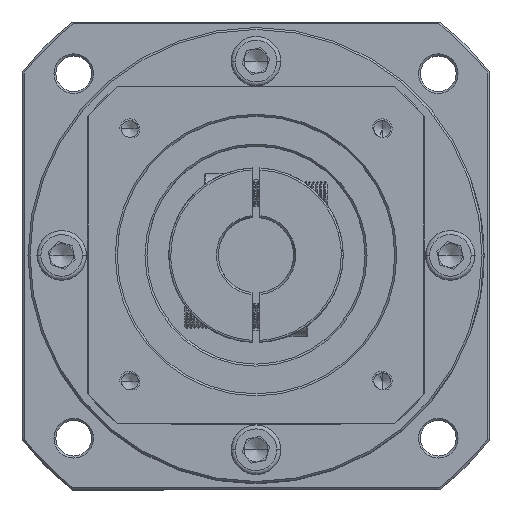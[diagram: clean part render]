
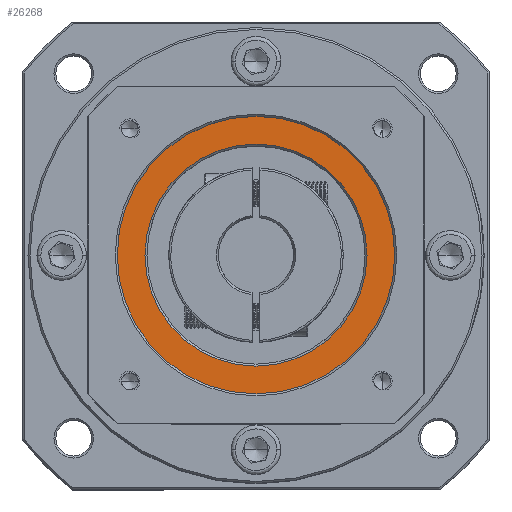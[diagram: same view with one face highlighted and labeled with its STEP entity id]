
A CAD part, top view. The second image highlights one B-rep face of the part: STEP entity #26268.
In plain terms, the highlighted planar face has unit normal (0, 0, 1).
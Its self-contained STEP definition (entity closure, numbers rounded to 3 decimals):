
#166 = VERTEX_POINT ( 'NONE', #33026 ) ;
#6248 = EDGE_CURVE ( 'NONE', #66719, #65392, #101559, .T. ) ;
#8110 = CARTESIAN_POINT ( 'NONE',  ( -89.577, 40.966, 10.175 ) ) ;
#8516 = EDGE_CURVE ( 'NONE', #65392, #66719, #50010, .T. ) ;
#11376 = CARTESIAN_POINT ( 'NONE',  ( -124.577, 40.966, 10.175 ) ) ;
#12165 = VERTEX_POINT ( 'NONE', #90967 ) ;
#15041 = EDGE_LOOP ( 'NONE', ( #78450, #38794 ) ) ;
#16832 = DIRECTION ( 'NONE',  ( 1., 0., 0. ) ) ;
#26127 = ORIENTED_EDGE ( 'NONE', *, *, #85159, .T. ) ;
#26268 = ADVANCED_FACE ( 'NONE', ( #29523, #52621 ), #61693, .T. ) ;
#29523 = FACE_OUTER_BOUND ( 'NONE', #15041, .T. ) ;
#31977 = CARTESIAN_POINT ( 'NONE',  ( -89.577, 40.966, 10.175 ) ) ;
#33026 = CARTESIAN_POINT ( 'NONE',  ( -61.577, 40.966, 10.175 ) ) ;
#33141 = CARTESIAN_POINT ( 'NONE',  ( -89.577, 40.966, 10.175 ) ) ;
#36287 = AXIS2_PLACEMENT_3D ( 'NONE', #33141, #93879, #41923 ) ;
#38794 = ORIENTED_EDGE ( 'NONE', *, *, #6248, .T. ) ;
#40755 = DIRECTION ( 'NONE',  ( 1., 0., 0. ) ) ;
#41923 = DIRECTION ( 'NONE',  ( 1., 0., 0. ) ) ;
#42749 = AXIS2_PLACEMENT_3D ( 'NONE', #100434, #48455, #109155 ) ;
#44560 = DIRECTION ( 'NONE',  ( 0., 0., 1. ) ) ;
#48455 = DIRECTION ( 'NONE',  ( 0., 0., -1. ) ) ;
#50010 = CIRCLE ( 'NONE', #59596, 35. ) ;
#51208 = AXIS2_PLACEMENT_3D ( 'NONE', #31977, #92747, #40755 ) ;
#52621 = FACE_BOUND ( 'NONE', #81357, .T. ) ;
#59596 = AXIS2_PLACEMENT_3D ( 'NONE', #8110, #68881, #16832 ) ;
#61693 = PLANE ( 'NONE',  #107595 ) ;
#65392 = VERTEX_POINT ( 'NONE', #101350 ) ;
#66719 = VERTEX_POINT ( 'NONE', #11376 ) ;
#68881 = DIRECTION ( 'NONE',  ( 0., 0., 1. ) ) ;
#74860 = ORIENTED_EDGE ( 'NONE', *, *, #110626, .T. ) ;
#78450 = ORIENTED_EDGE ( 'NONE', *, *, #8516, .T. ) ;
#81357 = EDGE_LOOP ( 'NONE', ( #74860, #26127 ) ) ;
#85159 = EDGE_CURVE ( 'NONE', #12165, #166, #103738, .T. ) ;
#90967 = CARTESIAN_POINT ( 'NONE',  ( -117.577, 40.966, 10.175 ) ) ;
#92747 = DIRECTION ( 'NONE',  ( 0., 0., 1. ) ) ;
#93879 = DIRECTION ( 'NONE',  ( 0., 0., -1. ) ) ;
#96576 = CARTESIAN_POINT ( 'NONE',  ( -89.577, 40.966, 10.175 ) ) ;
#100434 = CARTESIAN_POINT ( 'NONE',  ( -89.577, 40.966, 10.175 ) ) ;
#101350 = CARTESIAN_POINT ( 'NONE',  ( -54.577, 40.966, 10.175 ) ) ;
#101559 = CIRCLE ( 'NONE', #51208, 35. ) ;
#103738 = CIRCLE ( 'NONE', #36287, 28. ) ;
#105252 = DIRECTION ( 'NONE',  ( 1., 0., 0. ) ) ;
#107595 = AXIS2_PLACEMENT_3D ( 'NONE', #96576, #44560, #105252 ) ;
#109155 = DIRECTION ( 'NONE',  ( 1., 0., 0. ) ) ;
#110545 = CIRCLE ( 'NONE', #42749, 28. ) ;
#110626 = EDGE_CURVE ( 'NONE', #166, #12165, #110545, .T. ) ;
